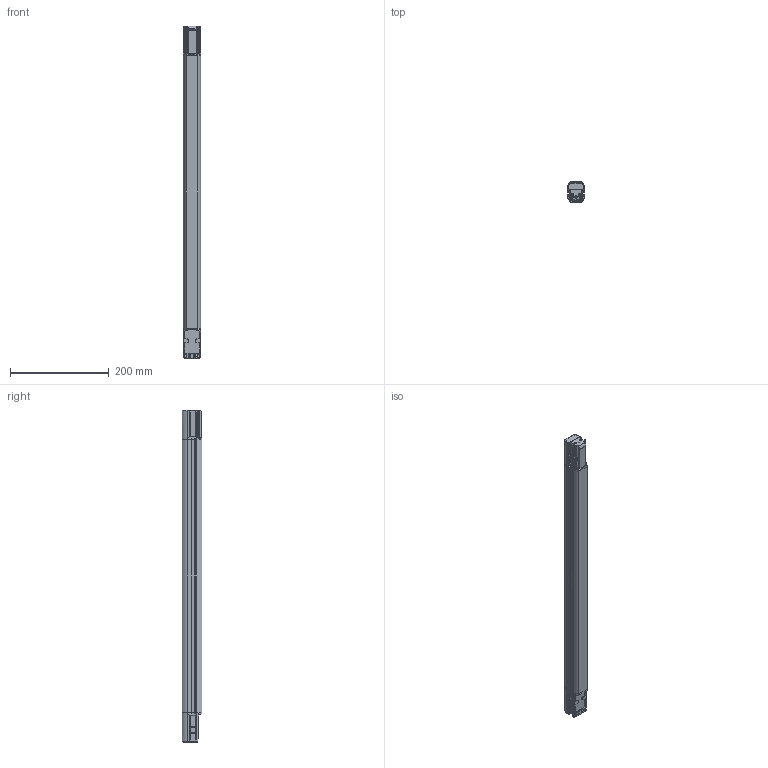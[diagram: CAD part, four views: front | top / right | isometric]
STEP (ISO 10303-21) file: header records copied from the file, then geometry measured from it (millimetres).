
FILE_DESCRIPTION(/* description */ (''),/* implementation_level */ '2;1');
FILE_NAME(/* name */ 'DSD-1126 SH4-P4-050.stp',/* time_stamp */ '2023-01-12T13:58:06+01:00',/* author */ (''),/* organization */ (''),/* preprocessor_version */ 'ST-DEVELOPER v16.701',/* originating_system */ 'SIEMENS PLM Software NX 1946',/* authorisation */ '');
FILE_SCHEMA (('AUTOMOTIVE_DESIGN { 1 0 10303 214 3 1 1 1 }'));
Length unit declared in the file: millimetre
Products named in the file (1): FGut5B4C7397d7dq
Bounding box: 35.08 x 40 x 674 mm (x, y, z)
Volume: 774522.9 mm3; surface area: 166529.3 mm2
Topology: 6 solids, 11 shells, 891 faces, 2383 edges, 1504 vertices
Faces by surface type: plane 363, cylinder 315, bspline 92, cone 55, extrusion 24, sphere 22, torus 20
Full cylindrical faces by diameter (mm): 2.013 x4, 2.2 x4, 3 x4, 4.37 x4, 5 x8
Entity records: 34929 total; most frequent: CARTESIAN_POINT 13568, ORIENTED_EDGE 4486, DIRECTION 3865, EDGE_CURVE 2243, VERTEX_POINT 1470, AXIS2_PLACEMENT_3D 1345, VECTOR 1175, LINE 1151
